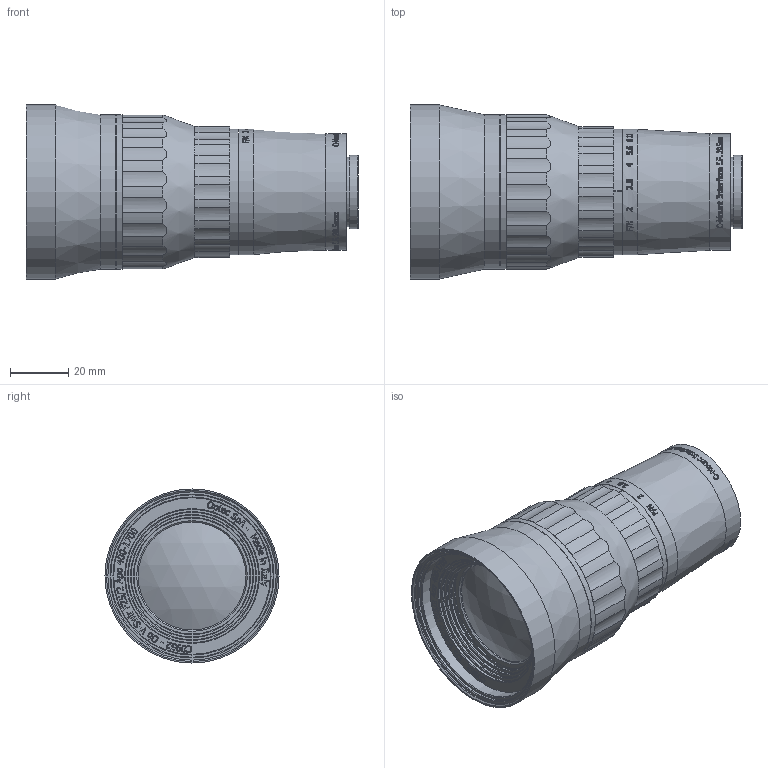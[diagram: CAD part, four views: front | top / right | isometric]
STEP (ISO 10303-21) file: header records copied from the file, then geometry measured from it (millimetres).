
FILE_DESCRIPTION((''),'2;1');
FILE_NAME('C:\Users\mcilia\Desktop\C0952_001_000.stp','2014-03-11T17:02:14',('mcilia'),(''),'Autodesk Inventor 2010','Autodesk Inventor 2010','');
FILE_SCHEMA(('AUTOMOTIVE_DESIGN { 1 0 10303 214 1 1 1 1 }'));
Length unit declared in the file: millimetre
Products named in the file (1): C0952_990_000
Bounding box: 114 x 59.8 x 59.8 mm (x, y, z)
Volume: 79195.4 mm3; surface area: 78815.1 mm2
Topology: 1 solids, 7 shells, 1924 faces, 5130 edges, 3413 vertices
Faces by surface type: plane 887, bspline 808, cylinder 205, cone 19, sphere 5
Full cylindrical faces by diameter (mm): 23.2 x1, 24 x1, 25.4 x1, 27 x1, 28 x1, 30 x2, 33 x3, 33.4 x2, 34 x1, 35 x1, 36 x6, 37 x1, 38 x3, 39 x1, 39.8 x1, 40 x1, 41 x2, 41.5 x2, 41.8 x1, 43 x2, 43.5 x1, 43.8 x1, 45.8 x1, 46 x1, 49 x1, 50 x2, 51 x2, 53 x2, 53.8 x1, 55.8 x1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
Entity records: 189066 total; most frequent: CARTESIAN_POINT 147243, ORIENTED_EDGE 10116, DIRECTION 5666, EDGE_CURVE 5058, VERTEX_POINT 3409, VECTOR 2504, LINE 2504, EDGE_LOOP 2197
